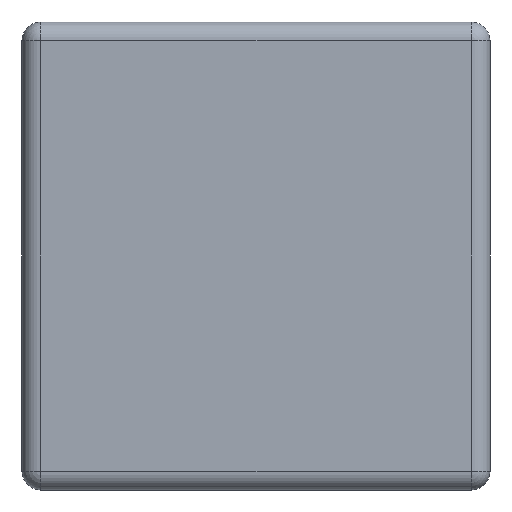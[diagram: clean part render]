
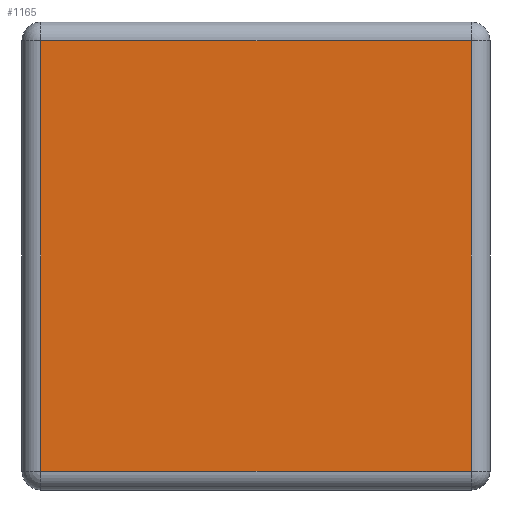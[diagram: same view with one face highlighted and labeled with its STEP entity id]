
A CAD part, left-side view. The second image highlights one B-rep face of the part: STEP entity #1165.
In plain terms, the highlighted planar face has unit normal (-1, 0, 0).
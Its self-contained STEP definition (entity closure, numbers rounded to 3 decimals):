
#186 = CYLINDRICAL_SURFACE('',#187,0.1);
#187 = AXIS2_PLACEMENT_3D('',#188,#189,#190);
#188 = CARTESIAN_POINT('',(-1.5,1.15,0.));
#189 = DIRECTION('',(0.,0.,1.));
#190 = DIRECTION('',(-0.,1.,0.));
#582 = VERTEX_POINT('',#583);
#583 = CARTESIAN_POINT('',(-1.6,1.15,0.1));
#603 = EDGE_CURVE('',#582,#604,#606,.T.);
#604 = VERTEX_POINT('',#605);
#605 = CARTESIAN_POINT('',(-1.6,1.15,2.4));
#606 = SURFACE_CURVE('',#607,(#611,#618),.PCURVE_S1.);
#607 = LINE('',#608,#609);
#608 = CARTESIAN_POINT('',(-1.6,1.15,0.));
#609 = VECTOR('',#610,1.);
#610 = DIRECTION('',(0.,0.,1.));
#611 = PCURVE('',#186,#612);
#612 = DEFINITIONAL_REPRESENTATION('',(#613),#617);
#613 = LINE('',#614,#615);
#614 = CARTESIAN_POINT('',(1.571,0.));
#615 = VECTOR('',#616,1.);
#616 = DIRECTION('',(0.,1.));
#617 = ( GEOMETRIC_REPRESENTATION_CONTEXT(2) 
PARAMETRIC_REPRESENTATION_CONTEXT() REPRESENTATION_CONTEXT('2D SPACE',''
  ) );
#618 = PCURVE('',#619,#624);
#619 = PLANE('',#620);
#620 = AXIS2_PLACEMENT_3D('',#621,#622,#623);
#621 = CARTESIAN_POINT('',(-1.6,-1.25,0.));
#622 = DIRECTION('',(-1.,0.,0.));
#623 = DIRECTION('',(0.,1.,0.));
#624 = DEFINITIONAL_REPRESENTATION('',(#625),#629);
#625 = LINE('',#626,#627);
#626 = CARTESIAN_POINT('',(2.4,0.));
#627 = VECTOR('',#628,1.);
#628 = DIRECTION('',(0.,-1.));
#629 = ( GEOMETRIC_REPRESENTATION_CONTEXT(2) 
PARAMETRIC_REPRESENTATION_CONTEXT() REPRESENTATION_CONTEXT('2D SPACE',''
  ) );
#1016 = CYLINDRICAL_SURFACE('',#1017,0.1);
#1017 = AXIS2_PLACEMENT_3D('',#1018,#1019,#1020);
#1018 = CARTESIAN_POINT('',(-1.5,-1.25,0.1));
#1019 = DIRECTION('',(0.,1.,0.));
#1020 = DIRECTION('',(-1.,0.,0.));
#1100 = CYLINDRICAL_SURFACE('',#1101,0.1);
#1101 = AXIS2_PLACEMENT_3D('',#1102,#1103,#1104);
#1102 = CARTESIAN_POINT('',(-1.5,-1.25,2.4));
#1103 = DIRECTION('',(0.,1.,0.));
#1104 = DIRECTION('',(-1.,0.,0.));
#1165 = ADVANCED_FACE('',(#1166),#619,.T.);
#1166 = FACE_BOUND('',#1167,.T.);
#1167 = EDGE_LOOP('',(#1168,#1198,#1219,#1220));
#1168 = ORIENTED_EDGE('',*,*,#1169,.T.);
#1169 = EDGE_CURVE('',#1170,#1172,#1174,.T.);
#1170 = VERTEX_POINT('',#1171);
#1171 = CARTESIAN_POINT('',(-1.6,-1.15,0.1));
#1172 = VERTEX_POINT('',#1173);
#1173 = CARTESIAN_POINT('',(-1.6,-1.15,2.4));
#1174 = SURFACE_CURVE('',#1175,(#1179,#1186),.PCURVE_S1.);
#1175 = LINE('',#1176,#1177);
#1176 = CARTESIAN_POINT('',(-1.6,-1.15,0.));
#1177 = VECTOR('',#1178,1.);
#1178 = DIRECTION('',(0.,0.,1.));
#1179 = PCURVE('',#619,#1180);
#1180 = DEFINITIONAL_REPRESENTATION('',(#1181),#1185);
#1181 = LINE('',#1182,#1183);
#1182 = CARTESIAN_POINT('',(0.1,0.));
#1183 = VECTOR('',#1184,1.);
#1184 = DIRECTION('',(0.,-1.));
#1185 = ( GEOMETRIC_REPRESENTATION_CONTEXT(2) 
PARAMETRIC_REPRESENTATION_CONTEXT() REPRESENTATION_CONTEXT('2D SPACE',''
  ) );
#1186 = PCURVE('',#1187,#1192);
#1187 = CYLINDRICAL_SURFACE('',#1188,0.1);
#1188 = AXIS2_PLACEMENT_3D('',#1189,#1190,#1191);
#1189 = CARTESIAN_POINT('',(-1.5,-1.15,0.));
#1190 = DIRECTION('',(0.,0.,1.));
#1191 = DIRECTION('',(-1.,0.,0.));
#1192 = DEFINITIONAL_REPRESENTATION('',(#1193),#1197);
#1193 = LINE('',#1194,#1195);
#1194 = CARTESIAN_POINT('',(0.,0.));
#1195 = VECTOR('',#1196,1.);
#1196 = DIRECTION('',(0.,1.));
#1197 = ( GEOMETRIC_REPRESENTATION_CONTEXT(2) 
PARAMETRIC_REPRESENTATION_CONTEXT() REPRESENTATION_CONTEXT('2D SPACE',''
  ) );
#1198 = ORIENTED_EDGE('',*,*,#1199,.T.);
#1199 = EDGE_CURVE('',#1172,#604,#1200,.T.);
#1200 = SURFACE_CURVE('',#1201,(#1205,#1212),.PCURVE_S1.);
#1201 = LINE('',#1202,#1203);
#1202 = CARTESIAN_POINT('',(-1.6,-1.25,2.4));
#1203 = VECTOR('',#1204,1.);
#1204 = DIRECTION('',(0.,1.,0.));
#1205 = PCURVE('',#619,#1206);
#1206 = DEFINITIONAL_REPRESENTATION('',(#1207),#1211);
#1207 = LINE('',#1208,#1209);
#1208 = CARTESIAN_POINT('',(0.,-2.4));
#1209 = VECTOR('',#1210,1.);
#1210 = DIRECTION('',(1.,0.));
#1211 = ( GEOMETRIC_REPRESENTATION_CONTEXT(2) 
PARAMETRIC_REPRESENTATION_CONTEXT() REPRESENTATION_CONTEXT('2D SPACE',''
  ) );
#1212 = PCURVE('',#1100,#1213);
#1213 = DEFINITIONAL_REPRESENTATION('',(#1214),#1218);
#1214 = LINE('',#1215,#1216);
#1215 = CARTESIAN_POINT('',(0.,0.));
#1216 = VECTOR('',#1217,1.);
#1217 = DIRECTION('',(0.,1.));
#1218 = ( GEOMETRIC_REPRESENTATION_CONTEXT(2) 
PARAMETRIC_REPRESENTATION_CONTEXT() REPRESENTATION_CONTEXT('2D SPACE',''
  ) );
#1219 = ORIENTED_EDGE('',*,*,#603,.F.);
#1220 = ORIENTED_EDGE('',*,*,#1221,.F.);
#1221 = EDGE_CURVE('',#1170,#582,#1222,.T.);
#1222 = SURFACE_CURVE('',#1223,(#1227,#1234),.PCURVE_S1.);
#1223 = LINE('',#1224,#1225);
#1224 = CARTESIAN_POINT('',(-1.6,-1.25,0.1));
#1225 = VECTOR('',#1226,1.);
#1226 = DIRECTION('',(0.,1.,0.));
#1227 = PCURVE('',#619,#1228);
#1228 = DEFINITIONAL_REPRESENTATION('',(#1229),#1233);
#1229 = LINE('',#1230,#1231);
#1230 = CARTESIAN_POINT('',(0.,-0.1));
#1231 = VECTOR('',#1232,1.);
#1232 = DIRECTION('',(1.,0.));
#1233 = ( GEOMETRIC_REPRESENTATION_CONTEXT(2) 
PARAMETRIC_REPRESENTATION_CONTEXT() REPRESENTATION_CONTEXT('2D SPACE',''
  ) );
#1234 = PCURVE('',#1016,#1235);
#1235 = DEFINITIONAL_REPRESENTATION('',(#1236),#1240);
#1236 = LINE('',#1237,#1238);
#1237 = CARTESIAN_POINT('',(-0.,0.));
#1238 = VECTOR('',#1239,1.);
#1239 = DIRECTION('',(-0.,1.));
#1240 = ( GEOMETRIC_REPRESENTATION_CONTEXT(2) 
PARAMETRIC_REPRESENTATION_CONTEXT() REPRESENTATION_CONTEXT('2D SPACE',''
  ) );
